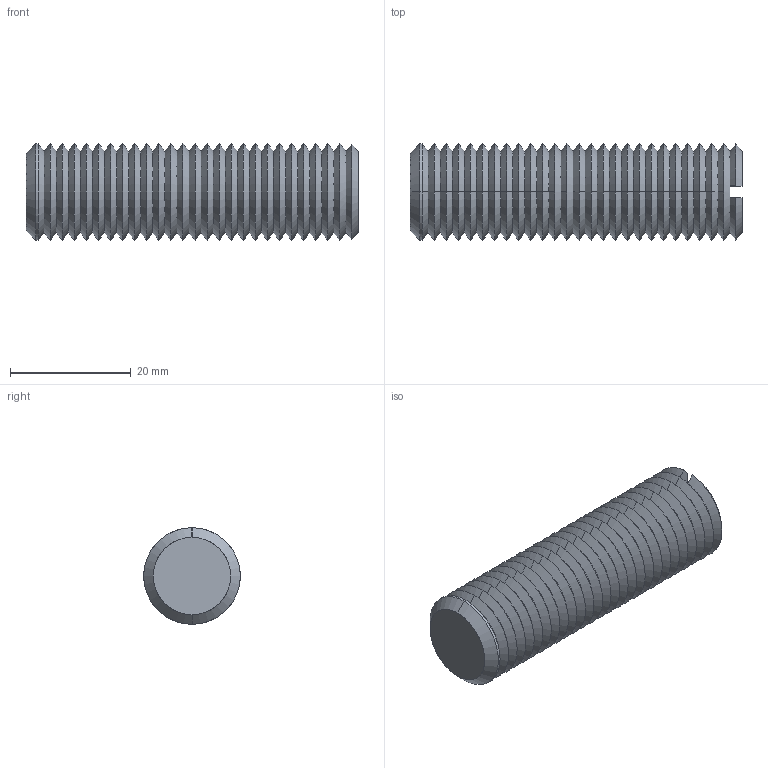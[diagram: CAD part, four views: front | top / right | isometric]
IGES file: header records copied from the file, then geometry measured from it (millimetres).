
Start section: SolidWorks IGES file using analytic representation for surfaces
Global section: file name: C:\Documents and Settings\IANO\Desktop\Temp File\Process pending\EXISTING\34300_v2\34300_v2_20170622_IGES\34300.W0165.igs; native system: SolidWorks 2009; preprocessor: SolidWorks 2009; author: IANO; date: 170622.094435; units: millimetre
Bounding box: 55 x 16 x 16 mm (x, y, z)
Surface area: 4369.7 mm2 (no closed solid volume)
Topology: 0 solids, 0 shells, 116 faces, 528 edges, 528 vertices
Faces by surface type: revolution 110, bspline 6
